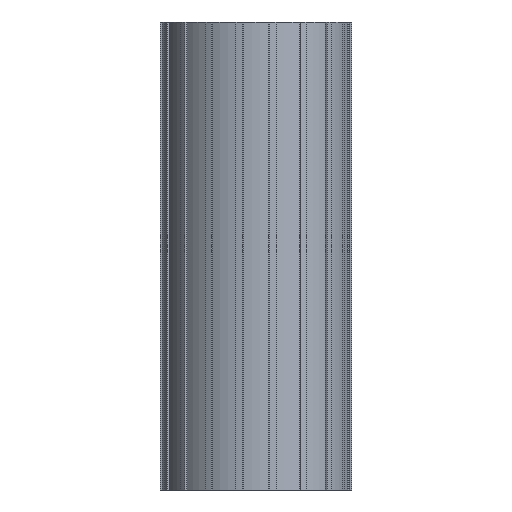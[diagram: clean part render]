
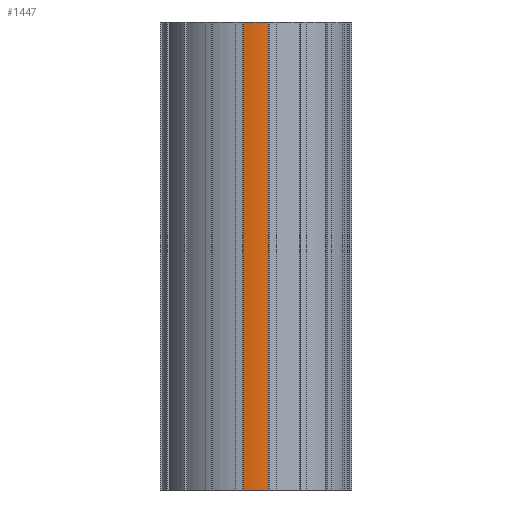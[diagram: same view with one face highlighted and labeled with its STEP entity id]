
A CAD part, front view. The second image highlights one B-rep face of the part: STEP entity #1447.
In plain terms, the highlighted cylindrical face has radius 40 mm (diameter 80 mm), a partial arc.
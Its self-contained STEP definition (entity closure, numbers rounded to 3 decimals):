
#18 = AXIS2_PLACEMENT_3D ( 'NONE', #955, #930, #907 ) ;
#251 = CIRCLE ( 'NONE', #1599, 40. ) ;
#309 = VERTEX_POINT ( 'NONE', #3035 ) ;
#332 = CYLINDRICAL_SURFACE ( 'NONE', #1934, 40. ) ;
#351 = FACE_OUTER_BOUND ( 'NONE', #3173, .T. ) ;
#806 = EDGE_CURVE ( 'NONE', #3279, #3945, #830, .T. ) ;
#817 = EDGE_CURVE ( 'NONE', #309, #3031, #832, .T. ) ;
#829 = VECTOR ( 'NONE', #2894, 1000. ) ;
#830 = LINE ( 'NONE', #2782, #829 ) ;
#832 = LINE ( 'NONE', #2951, #843 ) ;
#843 = VECTOR ( 'NONE', #2618, 1000. ) ;
#907 = DIRECTION ( 'NONE',  ( 1., 0., 0. ) ) ;
#930 = DIRECTION ( 'NONE',  ( 0., 0., 1. ) ) ;
#955 = CARTESIAN_POINT ( 'NONE',  ( 0.67, 0.433, 0. ) ) ;
#1447 = ADVANCED_FACE ( 'NONE', ( #351 ), #332, .T. ) ;
#1567 = EDGE_CURVE ( 'NONE', #3279, #309, #251, .T. ) ;
#1599 = AXIS2_PLACEMENT_3D ( 'NONE', #3044, #3036, #3034 ) ;
#1782 = CARTESIAN_POINT ( 'NONE',  ( -4.794, -39.192, 200. ) ) ;
#1793 = ORIENTED_EDGE ( 'NONE', *, *, #817, .F. ) ;
#1934 = AXIS2_PLACEMENT_3D ( 'NONE', #3840, #3769, #3848 ) ;
#2240 = ORIENTED_EDGE ( 'NONE', *, *, #1567, .F. ) ;
#2365 = EDGE_CURVE ( 'NONE', #3945, #3031, #3412, .T. ) ;
#2618 = DIRECTION ( 'NONE',  ( 0., 0., -1. ) ) ;
#2782 = CARTESIAN_POINT ( 'NONE',  ( -4.794, -39.192, 200. ) ) ;
#2894 = DIRECTION ( 'NONE',  ( 0., 0., -1. ) ) ;
#2951 = CARTESIAN_POINT ( 'NONE',  ( 6.133, -39.192, 200. ) ) ;
#3031 = VERTEX_POINT ( 'NONE', #3913 ) ;
#3034 = DIRECTION ( 'NONE',  ( 1., 0., 0. ) ) ;
#3035 = CARTESIAN_POINT ( 'NONE',  ( 6.133, -39.192, 200. ) ) ;
#3036 = DIRECTION ( 'NONE',  ( 0., 0., 1. ) ) ;
#3044 = CARTESIAN_POINT ( 'NONE',  ( 0.67, 0.433, 200. ) ) ;
#3173 = EDGE_LOOP ( 'NONE', ( #3844, #1793, #2240, #3578 ) ) ;
#3279 = VERTEX_POINT ( 'NONE', #1782 ) ;
#3412 = CIRCLE ( 'NONE', #18, 40. ) ;
#3578 = ORIENTED_EDGE ( 'NONE', *, *, #806, .T. ) ;
#3716 = CARTESIAN_POINT ( 'NONE',  ( -4.794, -39.192, 0. ) ) ;
#3769 = DIRECTION ( 'NONE',  ( 0., 0., -1. ) ) ;
#3840 = CARTESIAN_POINT ( 'NONE',  ( 0.67, 0.433, 200. ) ) ;
#3844 = ORIENTED_EDGE ( 'NONE', *, *, #2365, .T. ) ;
#3848 = DIRECTION ( 'NONE',  ( -1., 0., 0. ) ) ;
#3913 = CARTESIAN_POINT ( 'NONE',  ( 6.133, -39.192, 0. ) ) ;
#3945 = VERTEX_POINT ( 'NONE', #3716 ) ;
